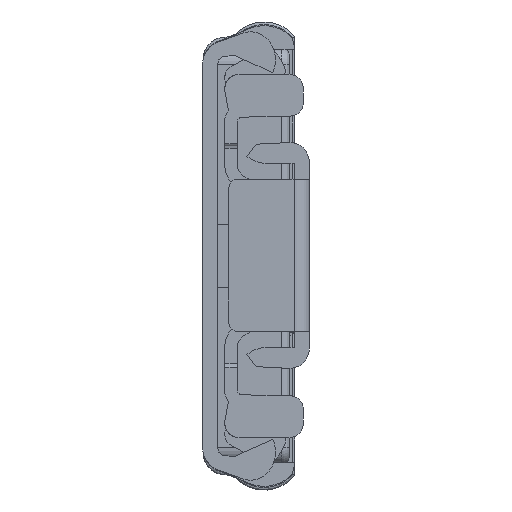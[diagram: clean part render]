
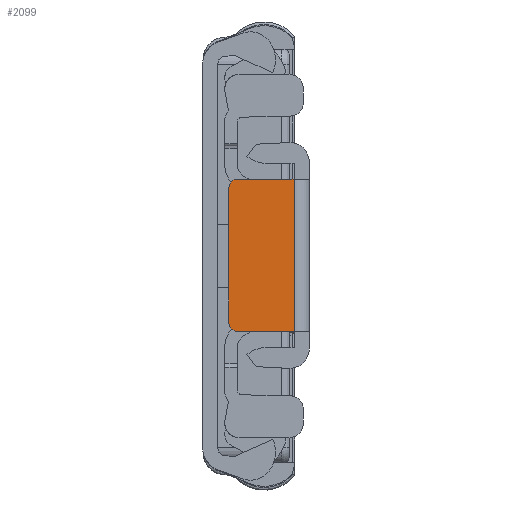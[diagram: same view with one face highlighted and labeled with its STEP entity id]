
A CAD part, front view. The second image highlights one B-rep face of the part: STEP entity #2099.
In plain terms, the highlighted planar face has unit normal (0, -1, 0).
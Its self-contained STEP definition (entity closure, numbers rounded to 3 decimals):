
#2099 = ADVANCED_FACE( '', ( #4283 ), #4284, .T. );
#4283 = FACE_OUTER_BOUND( '', #6575, .T. );
#4284 = PLANE( '', #6576 );
#6575 = EDGE_LOOP( '', ( #12797, #12798, #12799, #12800, #12801, #12802 ) );
#6576 = AXIS2_PLACEMENT_3D( '', #12803, #12804, #12805 );
#12797 = ORIENTED_EDGE( '', *, *, #13864, .T. );
#12798 = ORIENTED_EDGE( '', *, *, #14290, .T. );
#12799 = ORIENTED_EDGE( '', *, *, #15963, .T. );
#12800 = ORIENTED_EDGE( '', *, *, #13437, .T. );
#12801 = ORIENTED_EDGE( '', *, *, #15964, .T. );
#12802 = ORIENTED_EDGE( '', *, *, #15822, .T. );
#12803 = CARTESIAN_POINT( '', ( -9., -525.302, -2.366 ) );
#12804 = DIRECTION( '', ( 0., -1., 0. ) );
#12805 = DIRECTION( '', ( 0., 0., -1. ) );
#13437 = EDGE_CURVE( '', #16051, #16048, #16052, .T. );
#13864 = EDGE_CURVE( '', #16809, #16807, #16810, .T. );
#14290 = EDGE_CURVE( '', #16807, #17566, #17567, .T. );
#15822 = EDGE_CURVE( '', #19704, #16809, #19705, .T. );
#15963 = EDGE_CURVE( '', #17566, #16051, #19850, .T. );
#15964 = EDGE_CURVE( '', #16048, #19704, #19851, .T. );
#16048 = VERTEX_POINT( '', #19935 );
#16051 = VERTEX_POINT( '', #19938 );
#16052 = LINE( '', #19939, #19940 );
#16807 = VERTEX_POINT( '', #20951 );
#16809 = VERTEX_POINT( '', #20954 );
#16810 = LINE( '', #20955, #20956 );
#17566 = VERTEX_POINT( '', #21973 );
#17567 = CIRCLE( '', #21974, 1. );
#19704 = VERTEX_POINT( '', #25067 );
#19705 = CIRCLE( '', #25068, 1. );
#19850 = LINE( '', #25280, #25281 );
#19851 = LINE( '', #25282, #25283 );
#19935 = CARTESIAN_POINT( '', ( 9., -525.302, -1.898 ) );
#19938 = CARTESIAN_POINT( '', ( -9., -525.302, -1.898 ) );
#19939 = CARTESIAN_POINT( '', ( -9., -525.302, -1.898 ) );
#19940 = VECTOR( '', #25378, 1000. );
#20951 = CARTESIAN_POINT( '', ( -8., -525.302, 5.8 ) );
#20954 = CARTESIAN_POINT( '', ( 8., -525.302, 5.8 ) );
#20955 = CARTESIAN_POINT( '', ( 9., -525.302, 5.8 ) );
#20956 = VECTOR( '', #25946, 1000. );
#21973 = CARTESIAN_POINT( '', ( -9., -525.302, 4.8 ) );
#21974 = AXIS2_PLACEMENT_3D( '', #26649, #26650, #26651 );
#25067 = CARTESIAN_POINT( '', ( 9., -525.302, 4.8 ) );
#25068 = AXIS2_PLACEMENT_3D( '', #28430, #28431, #28432 );
#25280 = CARTESIAN_POINT( '', ( -9., -525.302, -2.366 ) );
#25281 = VECTOR( '', #28514, 1000. );
#25282 = CARTESIAN_POINT( '', ( 9., -525.302, -2.366 ) );
#25283 = VECTOR( '', #28515, 1000. );
#25378 = DIRECTION( '', ( 1., 0., 0. ) );
#25946 = DIRECTION( '', ( -1., 0., 0. ) );
#26649 = CARTESIAN_POINT( '', ( -8., -525.302, 4.8 ) );
#26650 = DIRECTION( '', ( 0., -1., 0. ) );
#26651 = DIRECTION( '', ( 0., 0., -1. ) );
#28430 = CARTESIAN_POINT( '', ( 8., -525.302, 4.8 ) );
#28431 = DIRECTION( '', ( 0., -1., 0. ) );
#28432 = DIRECTION( '', ( 0., 0., -1. ) );
#28514 = DIRECTION( '', ( 0., 0., -1. ) );
#28515 = DIRECTION( '', ( 0., 0., 1. ) );
